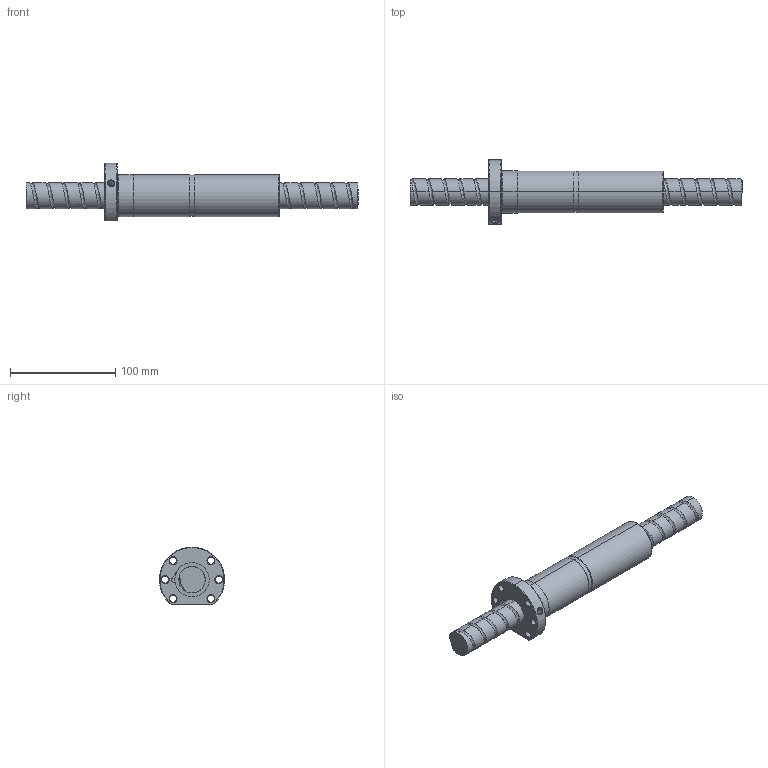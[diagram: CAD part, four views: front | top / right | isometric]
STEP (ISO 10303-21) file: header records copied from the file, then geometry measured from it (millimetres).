
FILE_DESCRIPTION (( 'STEP AP214' ), '1' );
FILE_NAME ('FDDC02515T4-B-B.STEP', '2010-07-07T01:20:06', ( 'XPAUTO' ), ( 'XPAUTO' ), 'SwSTEP 2.0', 'SolidWorks 2007', '' );
FILE_SCHEMA (( 'AUTOMOTIVE_DESIGN' ));
Length unit declared in the file: millimetre
Products named in the file (3): FDDC02515T4-B-B; FDDC02515T4-B-B.sldasm-Part-2_預設; FDDC02515T4-B-B.sldasm-Part-1_預設
Assembly tree (2 placements, depth 2):
  FDDC02515T4-B-B
    FDDC02515T4-B-B.sldasm-Part-2_預設
    FDDC02515T4-B-B.sldasm-Part-1_預設
Bounding box: 316 x 61.86 x 55 mm (x, y, z)
Volume: 289838.1 mm3; surface area: 68409 mm2
Topology: 2 solids, 2 shells, 144 faces, 361 edges, 226 vertices
Faces by surface type: cylinder 87, cone 24, plane 19, torus 9, bspline 5
Entity records: 26783 total; most frequent: CARTESIAN_POINT 23362, ORIENTED_EDGE 722, DIRECTION 663, EDGE_CURVE 361, AXIS2_PLACEMENT_3D 270, VERTEX_POINT 226, EDGE_LOOP 165, FACE_OUTER_BOUND 144
